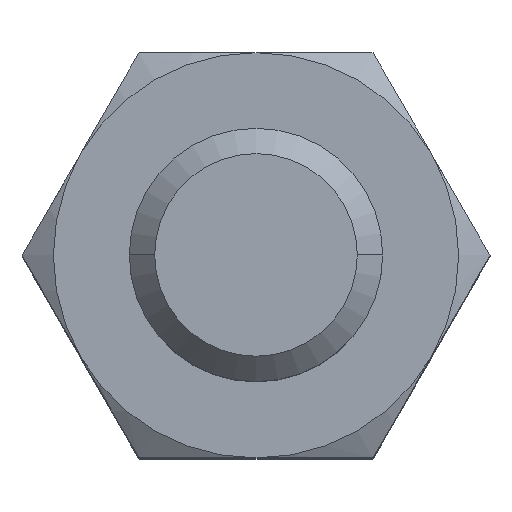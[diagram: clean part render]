
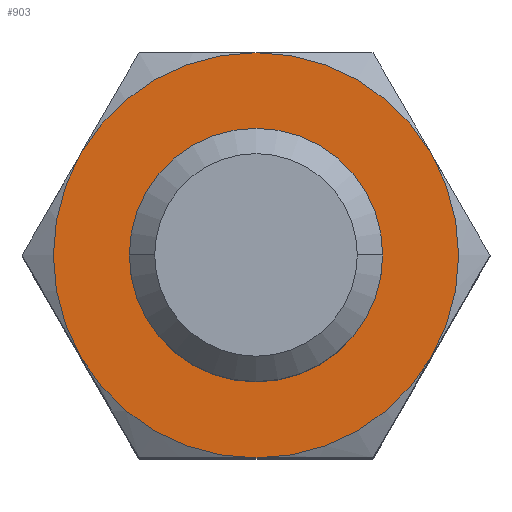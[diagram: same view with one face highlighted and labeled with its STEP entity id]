
A CAD part, top view. The second image highlights one B-rep face of the part: STEP entity #903.
In plain terms, the highlighted planar face has unit normal (0, 0, 1).
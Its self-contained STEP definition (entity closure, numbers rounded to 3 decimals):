
#15 = ORIENTED_EDGE ( 'NONE', *, *, #143, .T. ) ;
#23 = ORIENTED_EDGE ( 'NONE', *, *, #32, .T. ) ;
#32 = EDGE_CURVE ( 'NONE', #827, #1013, #1048, .T. ) ;
#42 = DIRECTION ( 'NONE',  ( 0., 0., 1. ) ) ;
#45 = VERTEX_POINT ( 'NONE', #297 ) ;
#73 = VERTEX_POINT ( 'NONE', #165 ) ;
#95 = ORIENTED_EDGE ( 'NONE', *, *, #1293, .T. ) ;
#112 = AXIS2_PLACEMENT_3D ( 'NONE', #1401, #792, #429 ) ;
#133 = ORIENTED_EDGE ( 'NONE', *, *, #1407, .T. ) ;
#137 = DIRECTION ( 'NONE',  ( 1., 0., 0. ) ) ;
#143 = EDGE_CURVE ( 'NONE', #1013, #320, #1447, .T. ) ;
#165 = CARTESIAN_POINT ( 'NONE',  ( 0., -4., 15.5 ) ) ;
#232 = DIRECTION ( 'NONE',  ( 0., 1., 0. ) ) ;
#283 = AXIS2_PLACEMENT_3D ( 'NONE', #1332, #478, #358 ) ;
#297 = CARTESIAN_POINT ( 'NONE',  ( -3.464, -2., 15.5 ) ) ;
#300 = DIRECTION ( 'NONE',  ( 0., 1., 0. ) ) ;
#317 = EDGE_LOOP ( 'NONE', ( #95, #740 ) ) ;
#320 = VERTEX_POINT ( 'NONE', #1060 ) ;
#338 = CARTESIAN_POINT ( 'NONE',  ( 0., 0., 15.5 ) ) ;
#358 = DIRECTION ( 'NONE',  ( 0., 1., 0. ) ) ;
#371 = CARTESIAN_POINT ( 'NONE',  ( 0., 0., 15.5 ) ) ;
#392 = CIRCLE ( 'NONE', #1574, 2.5 ) ;
#429 = DIRECTION ( 'NONE',  ( 1., 0., 0. ) ) ;
#465 = CARTESIAN_POINT ( 'NONE',  ( 0., 0., 15.5 ) ) ;
#478 = DIRECTION ( 'NONE',  ( 0., 0., 1. ) ) ;
#486 = DIRECTION ( 'NONE',  ( 0., 0., 1. ) ) ;
#487 = DIRECTION ( 'NONE',  ( 0., 0., -1. ) ) ;
#561 = DIRECTION ( 'NONE',  ( 0., 1., 0. ) ) ;
#596 = EDGE_CURVE ( 'NONE', #73, #827, #992, .T. ) ;
#639 = CARTESIAN_POINT ( 'NONE',  ( 3.464, 2., 15.5 ) ) ;
#659 = DIRECTION ( 'NONE',  ( 0., 0., 1. ) ) ;
#676 = AXIS2_PLACEMENT_3D ( 'NONE', #1026, #659, #1526 ) ;
#703 = EDGE_CURVE ( 'NONE', #842, #1226, #1103, .T. ) ;
#704 = CARTESIAN_POINT ( 'NONE',  ( -2.5, 0., 15.5 ) ) ;
#724 = DIRECTION ( 'NONE',  ( 1., 0., 0. ) ) ;
#740 = ORIENTED_EDGE ( 'NONE', *, *, #703, .T. ) ;
#765 = AXIS2_PLACEMENT_3D ( 'NONE', #1166, #1398, #300 ) ;
#766 = CARTESIAN_POINT ( 'NONE',  ( 0., 0., 15.5 ) ) ;
#792 = DIRECTION ( 'NONE',  ( 0., 0., -1. ) ) ;
#826 = ORIENTED_EDGE ( 'NONE', *, *, #596, .T. ) ;
#827 = VERTEX_POINT ( 'NONE', #1062 ) ;
#842 = VERTEX_POINT ( 'NONE', #704 ) ;
#846 = CARTESIAN_POINT ( 'NONE',  ( -3.464, 2., 15.5 ) ) ;
#855 = CARTESIAN_POINT ( 'NONE',  ( 0., 0., 15.5 ) ) ;
#903 = ADVANCED_FACE ( 'NONE', ( #1370, #1527 ), #1100, .T. ) ;
#906 = DIRECTION ( 'NONE',  ( 0., 1., 0. ) ) ;
#914 = ORIENTED_EDGE ( 'NONE', *, *, #1230, .T. ) ;
#926 = AXIS2_PLACEMENT_3D ( 'NONE', #855, #1470, #724 ) ;
#992 = CIRCLE ( 'NONE', #676, 4. ) ;
#1013 = VERTEX_POINT ( 'NONE', #639 ) ;
#1026 = CARTESIAN_POINT ( 'NONE',  ( 0., 0., 15.5 ) ) ;
#1048 = CIRCLE ( 'NONE', #1107, 4. ) ;
#1060 = CARTESIAN_POINT ( 'NONE',  ( 0., 4., 15.5 ) ) ;
#1062 = CARTESIAN_POINT ( 'NONE',  ( 3.464, -2., 15.5 ) ) ;
#1100 = PLANE ( 'NONE',  #926 ) ;
#1103 = CIRCLE ( 'NONE', #112, 2.5 ) ;
#1107 = AXIS2_PLACEMENT_3D ( 'NONE', #766, #42, #906 ) ;
#1122 = CIRCLE ( 'NONE', #283, 4. ) ;
#1166 = CARTESIAN_POINT ( 'NONE',  ( 0., 0., 15.5 ) ) ;
#1187 = DIRECTION ( 'NONE',  ( 0., 0., 1. ) ) ;
#1195 = CARTESIAN_POINT ( 'NONE',  ( 2.5, 0., 15.5 ) ) ;
#1198 = EDGE_CURVE ( 'NONE', #320, #1464, #1563, .T. ) ;
#1226 = VERTEX_POINT ( 'NONE', #1195 ) ;
#1230 = EDGE_CURVE ( 'NONE', #1464, #45, #1122, .T. ) ;
#1293 = EDGE_CURVE ( 'NONE', #1226, #842, #392, .T. ) ;
#1332 = CARTESIAN_POINT ( 'NONE',  ( 0., 0., 15.5 ) ) ;
#1368 = EDGE_LOOP ( 'NONE', ( #1420, #914, #133, #826, #23, #15 ) ) ;
#1370 = FACE_OUTER_BOUND ( 'NONE', #1368, .T. ) ;
#1398 = DIRECTION ( 'NONE',  ( 0., 0., 1. ) ) ;
#1401 = CARTESIAN_POINT ( 'NONE',  ( 0., 0., 15.5 ) ) ;
#1407 = EDGE_CURVE ( 'NONE', #45, #73, #1440, .T. ) ;
#1420 = ORIENTED_EDGE ( 'NONE', *, *, #1198, .T. ) ;
#1421 = AXIS2_PLACEMENT_3D ( 'NONE', #338, #1187, #561 ) ;
#1440 = CIRCLE ( 'NONE', #1512, 4. ) ;
#1447 = CIRCLE ( 'NONE', #765, 4. ) ;
#1464 = VERTEX_POINT ( 'NONE', #846 ) ;
#1470 = DIRECTION ( 'NONE',  ( 0., 0., 1. ) ) ;
#1512 = AXIS2_PLACEMENT_3D ( 'NONE', #465, #486, #232 ) ;
#1526 = DIRECTION ( 'NONE',  ( 0., 1., 0. ) ) ;
#1527 = FACE_BOUND ( 'NONE', #317, .T. ) ;
#1563 = CIRCLE ( 'NONE', #1421, 4. ) ;
#1574 = AXIS2_PLACEMENT_3D ( 'NONE', #371, #487, #137 ) ;
